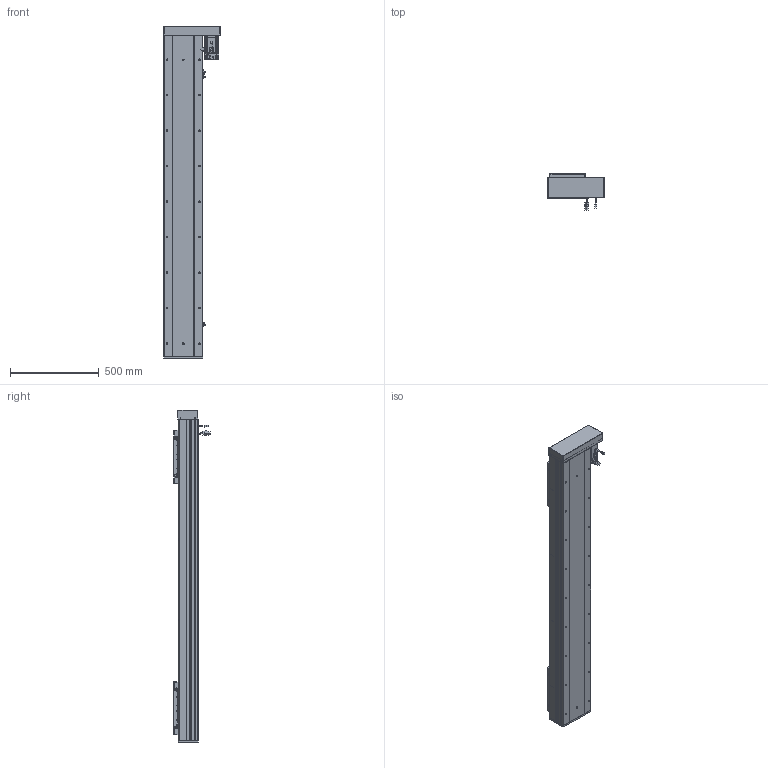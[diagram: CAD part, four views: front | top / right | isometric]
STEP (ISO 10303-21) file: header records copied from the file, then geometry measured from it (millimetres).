
FILE_DESCRIPTION (( 'STEP AP203' ), '1' );
FILE_NAME ('RY220F-L2525-300-RK.SLDASM_1400.step', '2022-07-04T01:35:41', ( '' ), ( '' ), 'SwSTEP 2.0', 'SolidWorks 2016', '' );
FILE_SCHEMA (( 'CONFIG_CONTROL_DESIGN' ));
Length unit declared in the file: millimetre
Products named in the file (15): RY220F臏賑釱25-32佪裝; RY220左右折电机安装板; RY220F-祥凄詩湍-蛌殏-300_1400; RY220F-L2525-300-RK.SLDASM_1400; RY220F-滅鳥奻裔; 侐源滅袉蝶; 怢湛750W_ECMA-CX0807ES; RY220酘衵殏萇儂欶; RY220F-蛌殏奻裔啣-300_1400; 滅袉蝶18-24; RY220F-672覜茼んえ; RY220F蛌殏菁釱-300_1400; 覜茼ん672; RY220F-詩湍揤踡輸; RY220F綴裔啣
Assembly tree (24 placements, depth 2):
  RY220F-L2525-300-RK.SLDASM_1400
    RY220F蛌殏菁釱-300_1400
    RY220F-蛌殏奻裔啣-300_1400  x2
    怢湛750W_ECMA-CX0807ES
    RY220F臏賑釱25-32佪裝  x2
    RY220F-滅鳥奻裔  x2
    滅袉蝶18-24  x3
    RY220F綴裔啣
    RY220F-祥凄詩湍-蛌殏-300_1400
    RY220F-詩湍揤踡輸  x2
    覜茼ん672  x3
    RY220F-672覜茼んえ  x2
    RY220左右折电机安装板
    RY220酘衵殏萇儂欶
    侐源滅袉蝶  x2
Bounding box: 317.5 x 205.27 x 1871 mm (x, y, z)
Volume: 17094888 mm3; surface area: 4506648.2 mm2
Topology: 25 solids, 25 shells, 2792 faces, 7592 edges, 4694 vertices
Faces by surface type: cylinder 1262, plane 1044, cone 415, bspline 45, sphere 16, torus 10
Entity records: 69356 total; most frequent: CARTESIAN_POINT 18755, ORIENTED_EDGE 10214, DIRECTION 9960, EDGE_CURVE 5107, AXIS2_PLACEMENT_3D 3550, VERTEX_POINT 3310, LINE 2860, VECTOR 2860
